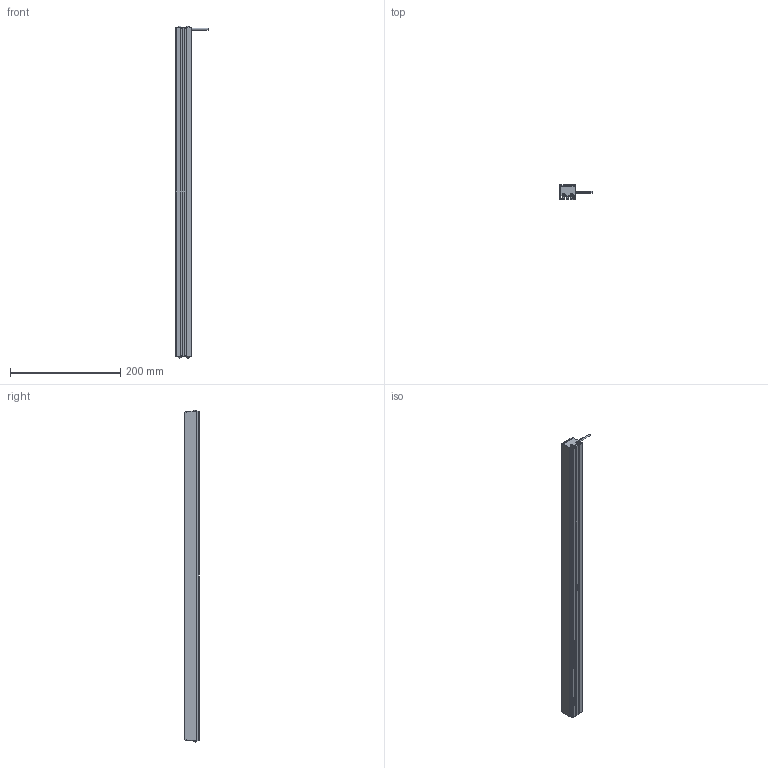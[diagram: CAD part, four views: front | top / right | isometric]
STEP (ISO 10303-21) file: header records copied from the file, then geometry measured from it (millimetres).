
FILE_DESCRIPTION((''),'2;1');
FILE_NAME('MV-LLDS-597-28_ASM','2020-12-30T',('Administrator'),(''),'PRO/ENGINEER BY PARAMETRIC TECHNOLOGY CORPORATION, 2010100','PRO/ENGINEER BY PARAMETRIC TECHNOLOGY CORPORATION, 2010100','');
FILE_SCHEMA(('CONFIG_CONTROL_DESIGN'));
Length unit declared in the file: millimetre
Products named in the file (3): BL-4_2_; M3-5_3; MV-LLDS-597-28_ASM
Assembly tree (5 placements, depth 2):
  MV-LLDS-597-28_ASM
    BL-4_2_
    M3-5_3  x4
Bounding box: 58 x 27 x 601.68 mm (x, y, z)
Volume: 373966.9 mm3; surface area: 139504.1 mm2
Topology: 5 solids, 13 shells, 303 faces, 802 edges, 516 vertices
Faces by surface type: plane 185, cylinder 70, cone 16, bspline 16, torus 8, sphere 8
Entity records: 6720 total; most frequent: CARTESIAN_POINT 1432, ORIENTED_EDGE 1074, DIRECTION 1069, EDGE_CURVE 547, VECTOR 397, LINE 397, VERTEX_POINT 357, AXIS2_PLACEMENT_3D 336
